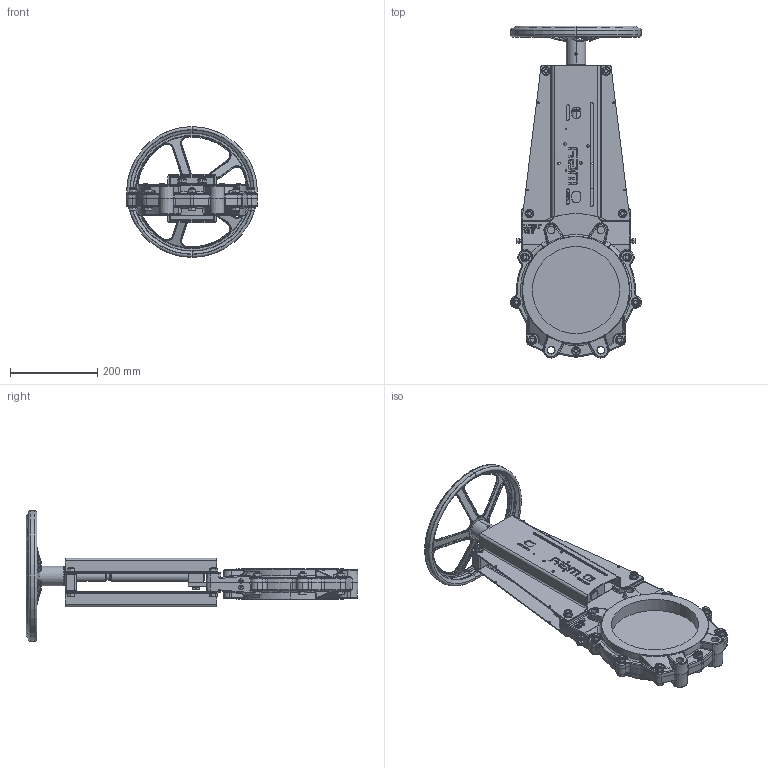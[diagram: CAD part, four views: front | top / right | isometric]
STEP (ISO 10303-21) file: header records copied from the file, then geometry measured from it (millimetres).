
FILE_DESCRIPTION (( 'STEP AP214' ), '1' );
FILE_NAME ('VSA DN 0200.STEP', '2015-09-23T10:55:43', ( 'admin' ), ( 'Hewlett-Packard Company' ), 'SwSTEP 2.0', 'SolidWorks 2013', '' );
FILE_SCHEMA (( 'AUTOMOTIVE_DESIGN' ));
Length unit declared in the file: millimetre
Products named in the file (1): VSA DN 0200
Bounding box: 301 x 761.32 x 300 mm (x, y, z)
Volume: 4158211 mm3; surface area: 964557.8 mm2
Topology: 60 solids, 61 shells, 2737 faces, 6543 edges, 3898 vertices
Faces by surface type: plane 881, cylinder 729, cone 509, bspline 398, torus 188, sphere 32
Entity records: 128489 total; most frequent: CARTESIAN_POINT 37110, ORIENTED_EDGE 12906, DIRECTION 12261, EDGE_CURVE 6453, AXIS2_PLACEMENT_3D 4899, VERTEX_POINT 3898, EDGE_LOOP 3013, UNCERTAINTY_MEASURE_WITH_UNIT 2799
